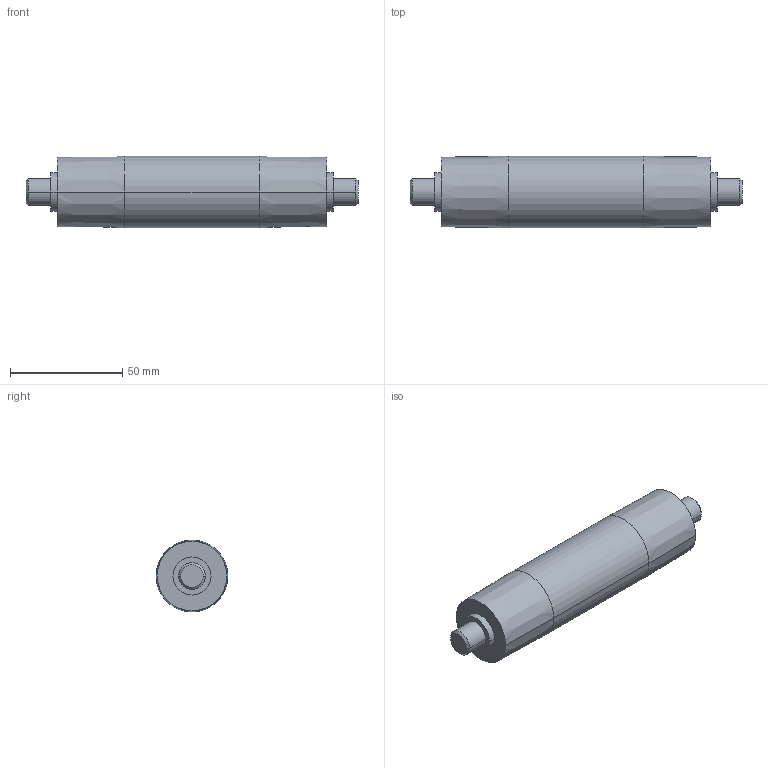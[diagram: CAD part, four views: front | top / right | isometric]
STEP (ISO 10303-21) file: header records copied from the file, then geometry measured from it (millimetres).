
FILE_DESCRIPTION (( 'STEP AP214' ), '1' );
FILE_NAME ('084.030.179.STEP', '2021-02-05T15:47:06', ( '' ), ( '' ), 'SwSTEP 2.0', 'SolidWorks 2018', '' );
FILE_SCHEMA (( 'AUTOMOTIVE_DESIGN' ));
Length unit declared in the file: millimetre
Products named in the file (1): 084.030.179
Bounding box: 148 x 32 x 32 mm (x, y, z)
Volume: 98831.9 mm3; surface area: 14582.9 mm2
Topology: 1 solids, 1 shells, 24 faces, 46 edges, 28 vertices
Faces by surface type: cylinder 10, cone 8, plane 6
Entity records: 648 total; most frequent: DIRECTION 124, CARTESIAN_POINT 99, ORIENTED_EDGE 92, AXIS2_PLACEMENT_3D 53, EDGE_CURVE 46, EDGE_LOOP 28, CIRCLE 28, VERTEX_POINT 28
